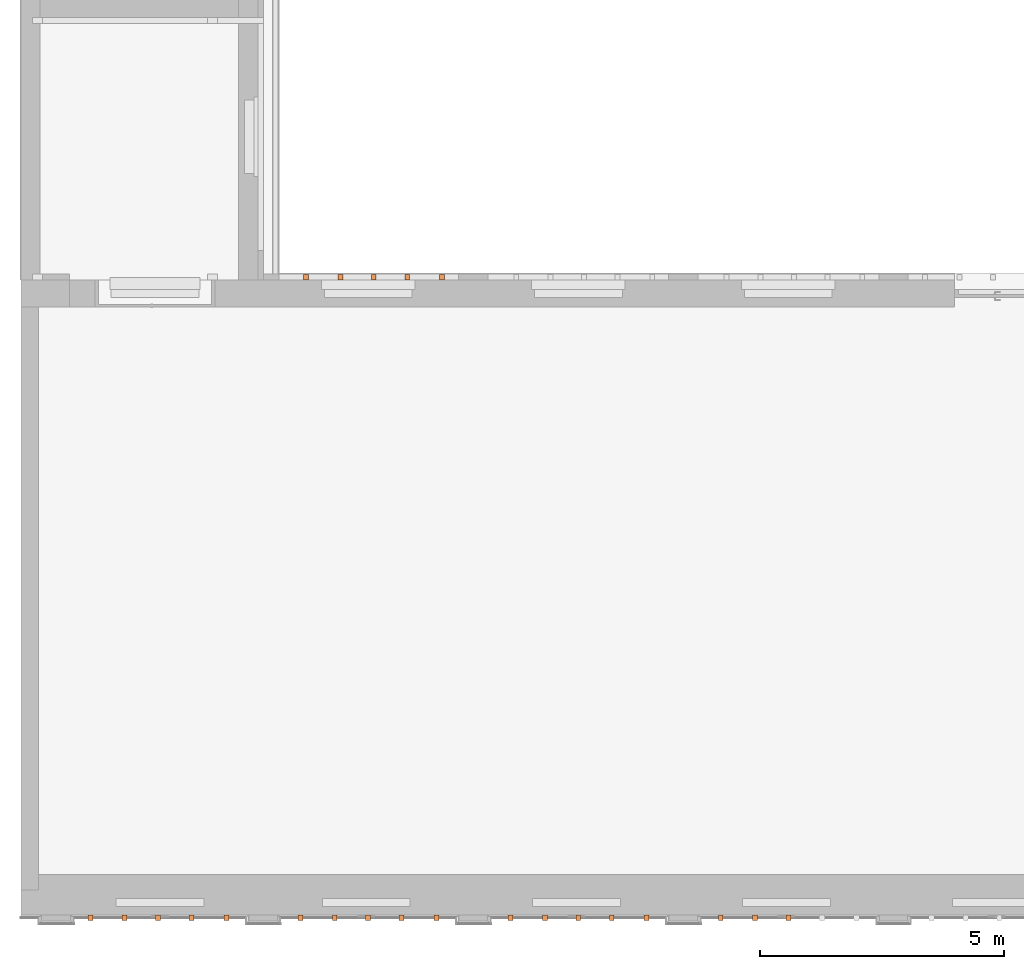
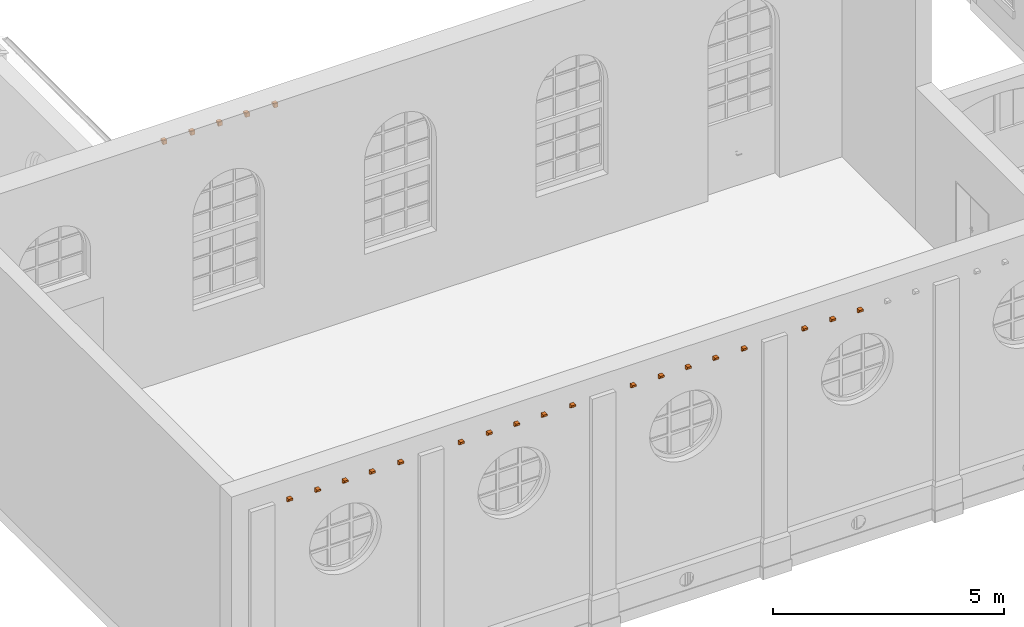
"""IFC4 building model written with IfcOpenShell, lengths in metres."""

from ifc_helpers import new_model, entity, si_unit, converted_unit, derived_unit, frame, origin, place, context, subcontext, project, spatial, faceted_brep, element, save


model = new_model("IFC4")

# Units and contexts
model_context = context("Model", 3, precision=1e-05, world=origin())
body_context = subcontext(model_context, "Body", "Model", "MODEL_VIEW")
ifc_project = project(units=[si_unit("LENGTHUNIT", "METRE"), si_unit("AREAUNIT", "SQUARE_METRE"), si_unit("VOLUMEUNIT", "CUBIC_METRE"), si_unit("MASSUNIT", "GRAM", prefix="KILO"), converted_unit("PLANEANGLEUNIT", "DEGREE", entity("IfcPlaneAngleMeasure", 0.0174532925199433), si_unit("PLANEANGLEUNIT", "RADIAN"), dimensions=[0, 0, 0, 0, 0, 0, 0]), derived_unit("THERMALTRANSMITTANCEUNIT", [(si_unit("POWERUNIT", "WATT"), 1), (si_unit("THERMODYNAMICTEMPERATUREUNIT", "KELVIN"), -1), (si_unit("LENGTHUNIT", "METRE"), -2)]), derived_unit("VOLUMETRICFLOWRATEUNIT", [(si_unit("LENGTHUNIT", "METRE"), 3), (converted_unit("TIMEUNIT", "hour", entity("IfcTimeMeasure", 3600.0), si_unit("TIMEUNIT", "SECOND"), dimensions=[0, 0, 1, 0, 0, 0, 0]), -1), (si_unit("LENGTHUNIT", "METRE"), -1)])], contexts=[model_context])

# Building, storeys
building_placement = place(None, origin())
building = spatial("IfcBuilding", under=ifc_project, at=building_placement, Name="Bestandsgebäude A - Sporthalle / Wohnhaus (TB 100-499)   ANPASSEN !!!", CompositionType="ELEMENT")
storey_1_placement = place(building_placement, origin())
storey_1 = spatial("IfcBuildingStorey", under=building, at=storey_1_placement, Name="Geb. A Erdgeschoss (TB 200-249)", CompositionType="ELEMENT", Elevation=0.0)
storey_2_placement = place(storey_1_placement, origin())
storey_2 = spatial("IfcBuildingStorey", under=storey_1, at=storey_2_placement, Name="Architektur (TB 200-209)", CompositionType="PARTIAL")

# Proxies
proxy_1_placement = place(storey_2_placement, frame((-22.7971205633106, 12.9999999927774, 5.81323934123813)))
element("IfcBuildingElementProxy", 1, at=proxy_1_placement, inside=storey_2, context=body_context, shape_type="Brep", body=[
    faceted_brep([(0.10000000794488, 0.0, 0.10676065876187), (0.10000000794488, 0.0, 0.0), (0.0, 0.0, 0.0), (0.0, 0.0, 0.10676065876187), (0.100000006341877, 0.0221942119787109, 0.0), (0.0, 0.0221942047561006, 0.0), (0.100000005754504, 0.0303266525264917, 0.00115963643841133), (0.0, 0.0303266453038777, 0.00115963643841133), (0.100000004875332, 0.0424991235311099, 0.00476296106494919), (0.0, 0.042499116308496, 0.00476296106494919), (0.100000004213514, 0.0516622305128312, 0.00852666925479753), (0.0, 0.0516622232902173, 0.00852666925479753), (0.100000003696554, 0.0588197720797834, 0.0140969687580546), (0.0, 0.0588197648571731, 0.0140969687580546), (0.10000000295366, 0.069105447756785, 0.0295254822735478), (0.0, 0.0691054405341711, 0.0295254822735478), (0.10000000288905, 0.0700000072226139, 0.0333518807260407), (0.0, 0.07, 0.0333518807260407), (0.10000000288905, 0.0700000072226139, 0.0567606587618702), (0.0, 0.07, 0.0567606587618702), (0.100000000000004, 0.110000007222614, 0.0567606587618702), (0.0, 0.11, 0.0567606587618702), (0.100000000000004, 0.110000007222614, 0.10676065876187), (0.0, 0.11, 0.10676065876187)], [[[0, 1, 2, 3]], [[1, 4, 5, 2]], [[4, 6, 7, 5]], [[6, 8, 9, 7]], [[8, 10, 11, 9]], [[10, 12, 13, 11]], [[12, 14, 15, 13]], [[14, 16, 17, 15]], [[16, 18, 19, 17]], [[18, 20, 21, 19]], [[20, 22, 23, 21]], [[22, 0, 3, 23]], [[0, 22, 20, 18, 16, 14, 12, 10, 8, 6, 4, 1]], [[3, 2, 5, 7, 9, 11, 13, 15, 17, 19, 21, 23]]], orient=[[False], [False], [False], [False], [False], [False], [False], [False], [False], [False], [False], [False], [False], [False]]),
])
proxy_2_placement = place(storey_2_placement, frame((-25.58, 12.9999999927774, 5.81323934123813)))
element("IfcBuildingElementProxy", 2, at=proxy_2_placement, inside=storey_2, context=body_context, shape_type="Brep", body=[
    faceted_brep([(0.100000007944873, 0.0, 0.10676065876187), (0.100000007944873, 0.0, 0.0), (0.0, 0.0, 0.0), (0.0, 0.0, 0.10676065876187), (0.10000000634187, 0.0221942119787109, 0.0), (0.0, 0.0221942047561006, 0.0), (0.100000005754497, 0.0303266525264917, 0.00115963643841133), (0.0, 0.0303266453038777, 0.00115963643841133), (0.100000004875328, 0.0424991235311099, 0.00476296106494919), (0.0, 0.042499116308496, 0.00476296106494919), (0.100000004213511, 0.0516622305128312, 0.00852666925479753), (0.0, 0.0516622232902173, 0.00852666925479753), (0.10000000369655, 0.0588197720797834, 0.0140969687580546), (0.0, 0.0588197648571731, 0.0140969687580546), (0.100000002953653, 0.069105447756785, 0.0295254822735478), (0.0, 0.0691054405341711, 0.0295254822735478), (0.100000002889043, 0.0700000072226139, 0.0333518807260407), (0.0, 0.07, 0.0333518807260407), (0.100000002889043, 0.0700000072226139, 0.0567606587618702), (0.0, 0.07, 0.0567606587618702), (0.1, 0.110000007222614, 0.0567606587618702), (0.0, 0.11, 0.0567606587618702), (0.1, 0.110000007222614, 0.10676065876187), (0.0, 0.11, 0.10676065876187)], [[[0, 1, 2, 3]], [[1, 4, 5, 2]], [[4, 6, 7, 5]], [[6, 8, 9, 7]], [[8, 10, 11, 9]], [[10, 12, 13, 11]], [[12, 14, 15, 13]], [[14, 16, 17, 15]], [[16, 18, 19, 17]], [[18, 20, 21, 19]], [[20, 22, 23, 21]], [[22, 0, 3, 23]], [[0, 22, 20, 18, 16, 14, 12, 10, 8, 6, 4, 1]], [[3, 2, 5, 7, 9, 11, 13, 15, 17, 19, 21, 23]]], orient=[[False], [False], [False], [False], [False], [False], [False], [False], [False], [False], [False], [False], [False], [False]]),
])
for number, where in (
    (3, (-24.88, 13.0000000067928, 5.81323934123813)),
    (4, (-24.195, 12.9999999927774, 5.81323934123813)),
):
    element("IfcBuildingElementProxy", number, at=place(storey_2_placement, frame(where)), inside=storey_2, context=body_context, shape_type="Brep", body=[
        faceted_brep([(0.100000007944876, 0.0, 0.10676065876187), (0.100000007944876, 0.0, 0.0), (0.0, 0.0, 0.0), (0.0, 0.0, 0.10676065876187), (0.100000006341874, 0.0221942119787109, 0.0), (0.0, 0.0221942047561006, 0.0), (0.1000000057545, 0.0303266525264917, 0.00115963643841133), (0.0, 0.0303266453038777, 0.00115963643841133), (0.100000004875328, 0.0424991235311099, 0.00476296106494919), (0.0, 0.042499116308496, 0.00476296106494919), (0.100000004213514, 0.0516622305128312, 0.00852666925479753), (0.0, 0.0516622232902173, 0.00852666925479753), (0.10000000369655, 0.0588197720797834, 0.0140969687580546), (0.0, 0.0588197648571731, 0.0140969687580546), (0.100000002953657, 0.069105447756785, 0.0295254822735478), (0.0, 0.0691054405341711, 0.0295254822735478), (0.100000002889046, 0.0700000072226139, 0.0333518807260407), (0.0, 0.07, 0.0333518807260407), (0.100000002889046, 0.0700000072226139, 0.0567606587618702), (0.0, 0.07, 0.0567606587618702), (0.1, 0.110000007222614, 0.0567606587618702), (0.0, 0.11, 0.0567606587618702), (0.1, 0.110000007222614, 0.10676065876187), (0.0, 0.11, 0.10676065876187)], [[[0, 1, 2, 3]], [[1, 4, 5, 2]], [[4, 6, 7, 5]], [[6, 8, 9, 7]], [[8, 10, 11, 9]], [[10, 12, 13, 11]], [[12, 14, 15, 13]], [[14, 16, 17, 15]], [[16, 18, 19, 17]], [[18, 20, 21, 19]], [[20, 22, 23, 21]], [[22, 0, 3, 23]], [[0, 22, 20, 18, 16, 14, 12, 10, 8, 6, 4, 1]], [[3, 2, 5, 7, 9, 11, 13, 15, 17, 19, 21, 23]]], orient=[[False], [False], [False], [False], [False], [False], [False], [False], [False], [False], [False], [False], [False], [False]]),
    ])
proxy_3_placement = place(storey_2_placement, frame((-23.51, 12.9999999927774, 5.81323934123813)))
element("IfcBuildingElementProxy", 5, at=proxy_3_placement, inside=storey_2, context=body_context, shape_type="Brep", body=[
    faceted_brep([(0.100000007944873, 0.0, 0.10676065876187), (0.100000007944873, 0.0, 0.0), (0.0, 0.0, 0.0), (0.0, 0.0, 0.10676065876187), (0.10000000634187, 0.0221942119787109, 0.0), (0.0, 0.0221942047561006, 0.0), (0.100000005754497, 0.0303266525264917, 0.00115963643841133), (0.0, 0.0303266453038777, 0.00115963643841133), (0.100000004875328, 0.0424991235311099, 0.00476296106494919), (0.0, 0.042499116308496, 0.00476296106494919), (0.100000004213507, 0.0516622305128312, 0.00852666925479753), (0.0, 0.0516622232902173, 0.00852666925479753), (0.10000000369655, 0.0588197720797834, 0.0140969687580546), (0.0, 0.0588197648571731, 0.0140969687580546), (0.100000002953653, 0.069105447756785, 0.0295254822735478), (0.0, 0.0691054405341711, 0.0295254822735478), (0.100000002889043, 0.0700000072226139, 0.0333518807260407), (0.0, 0.07, 0.0333518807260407), (0.100000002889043, 0.0700000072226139, 0.0567606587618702), (0.0, 0.07, 0.0567606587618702), (0.1, 0.110000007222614, 0.0567606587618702), (0.0, 0.11, 0.0567606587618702), (0.1, 0.110000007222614, 0.10676065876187), (0.0, 0.11, 0.10676065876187)], [[[0, 1, 2, 3]], [[1, 4, 5, 2]], [[4, 6, 7, 5]], [[6, 8, 9, 7]], [[8, 10, 11, 9]], [[10, 12, 13, 11]], [[12, 14, 15, 13]], [[14, 16, 17, 15]], [[16, 18, 19, 17]], [[18, 20, 21, 19]], [[20, 22, 23, 21]], [[22, 0, 3, 23]], [[0, 22, 20, 18, 16, 14, 12, 10, 8, 6, 4, 1]], [[3, 2, 5, 7, 9, 11, 13, 15, 17, 19, 21, 23]]], orient=[[False], [False], [False], [False], [False], [False], [False], [False], [False], [False], [False], [False], [False], [False]]),
])
proxy_4_placement = place(storey_2_placement, frame((-17.095, -0.11000000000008, 5.81323934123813)))
element("IfcBuildingElementProxy", 6, at=proxy_4_placement, inside=storey_2, context=body_context, shape_type="Brep", body=[
    faceted_brep([(0.100000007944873, 0.11, 0.10676065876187), (0.0, 0.110000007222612, 0.10676065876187), (0.0, 0.11000000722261, 0.0), (0.100000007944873, 0.109999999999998, 0.0), (0.0, 0.0878058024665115, 0.0), (0.10000000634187, 0.087805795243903, 0.0), (0.0, 0.0796733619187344, 0.00115963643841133), (0.100000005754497, 0.0796733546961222, 0.00115963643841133), (0.0, 0.0675008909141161, 0.00476296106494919), (0.100000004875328, 0.067500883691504, 0.00476296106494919), (0.0, 0.0583377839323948, 0.00852666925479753), (0.100000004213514, 0.0583377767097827, 0.00852666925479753), (0.0, 0.051180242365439, 0.0140969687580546), (0.10000000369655, 0.0511802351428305, 0.0140969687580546), (0.0, 0.040894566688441, 0.0295254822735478), (0.100000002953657, 0.0408945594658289, 0.0295254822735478), (0.0, 0.0400000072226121, 0.0333518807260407), (0.100000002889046, 0.04, 0.0333518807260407), (0.0, 0.0400000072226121, 0.0567606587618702), (0.100000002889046, 0.04, 0.0567606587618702), (0.0, 0.0, 0.0567606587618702), (0.1, 0.0, 0.0567606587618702), (0.0, 0.0, 0.10676065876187), (0.1, 0.0, 0.10676065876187)], [[[0, 1, 2, 3]], [[3, 2, 4, 5]], [[5, 4, 6, 7]], [[7, 6, 8, 9]], [[9, 8, 10, 11]], [[11, 10, 12, 13]], [[13, 12, 14, 15]], [[15, 14, 16, 17]], [[17, 16, 18, 19]], [[19, 18, 20, 21]], [[21, 20, 22, 23]], [[23, 22, 1, 0]], [[0, 3, 5, 7, 9, 11, 13, 15, 17, 19, 21, 23]], [[1, 22, 20, 18, 16, 14, 12, 10, 8, 6, 4, 2]]], orient=[[False], [False], [False], [False], [False], [False], [False], [False], [False], [False], [False], [False], [False], [False]]),
])
for number, where in (
    (7, (-16.395, -0.110000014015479, 5.81323934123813)),
    (8, (-15.71, -0.110000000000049, 5.81323934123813)),
):
    element("IfcBuildingElementProxy", number, at=place(storey_2_placement, frame(where)), inside=storey_2, context=body_context, shape_type="Brep", body=[
        faceted_brep([(0.100000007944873, 0.11, 0.10676065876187), (0.0, 0.110000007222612, 0.10676065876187), (0.0, 0.11000000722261, 0.0), (0.100000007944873, 0.109999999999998, 0.0), (0.0, 0.0878058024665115, 0.0), (0.10000000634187, 0.087805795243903, 0.0), (0.0, 0.0796733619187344, 0.00115963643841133), (0.100000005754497, 0.0796733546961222, 0.00115963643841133), (0.0, 0.0675008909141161, 0.00476296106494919), (0.100000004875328, 0.067500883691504, 0.00476296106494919), (0.0, 0.0583377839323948, 0.00852666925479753), (0.100000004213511, 0.0583377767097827, 0.00852666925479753), (0.0, 0.051180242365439, 0.0140969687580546), (0.10000000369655, 0.0511802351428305, 0.0140969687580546), (0.0, 0.040894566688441, 0.0295254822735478), (0.100000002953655, 0.0408945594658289, 0.0295254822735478), (0.0, 0.0400000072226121, 0.0333518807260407), (0.100000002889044, 0.04, 0.0333518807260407), (0.0, 0.0400000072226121, 0.0567606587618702), (0.100000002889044, 0.04, 0.0567606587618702), (0.0, 0.0, 0.0567606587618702), (0.1, 0.0, 0.0567606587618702), (0.0, 0.0, 0.10676065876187), (0.1, 0.0, 0.10676065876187)], [[[0, 1, 2, 3]], [[3, 2, 4, 5]], [[5, 4, 6, 7]], [[7, 6, 8, 9]], [[9, 8, 10, 11]], [[11, 10, 12, 13]], [[13, 12, 14, 15]], [[15, 14, 16, 17]], [[17, 16, 18, 19]], [[19, 18, 20, 21]], [[21, 20, 22, 23]], [[23, 22, 1, 0]], [[0, 3, 5, 7, 9, 11, 13, 15, 17, 19, 21, 23]], [[1, 22, 20, 18, 16, 14, 12, 10, 8, 6, 4, 2]]], orient=[[False], [False], [False], [False], [False], [False], [False], [False], [False], [False], [False], [False], [False], [False]]),
    ])
proxy_5_placement = place(storey_2_placement, frame((-18.6121205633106, -0.110000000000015, 5.81323934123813)))
element("IfcBuildingElementProxy", 9, at=proxy_5_placement, inside=storey_2, context=body_context, shape_type="Brep", body=[
    faceted_brep([(0.100000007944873, 0.11, 0.10676065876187), (0.0, 0.110000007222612, 0.10676065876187), (0.0, 0.11000000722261, 0.0), (0.100000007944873, 0.109999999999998, 0.0), (0.0, 0.0878058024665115, 0.0), (0.10000000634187, 0.087805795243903, 0.0), (0.0, 0.0796733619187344, 0.00115963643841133), (0.100000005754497, 0.0796733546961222, 0.00115963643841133), (0.0, 0.0675008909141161, 0.00476296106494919), (0.100000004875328, 0.067500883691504, 0.00476296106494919), (0.0, 0.0583377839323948, 0.00852666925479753), (0.100000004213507, 0.0583377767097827, 0.00852666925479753), (0.0, 0.051180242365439, 0.0140969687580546), (0.10000000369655, 0.0511802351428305, 0.0140969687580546), (0.0, 0.040894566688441, 0.0295254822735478), (0.100000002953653, 0.0408945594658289, 0.0295254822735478), (0.0, 0.0400000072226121, 0.0333518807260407), (0.100000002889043, 0.04, 0.0333518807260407), (0.0, 0.0400000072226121, 0.0567606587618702), (0.100000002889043, 0.04, 0.0567606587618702), (0.0, 0.0, 0.0567606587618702), (0.1, 0.0, 0.0567606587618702), (0.0, 0.0, 0.10676065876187), (0.1, 0.0, 0.10676065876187)], [[[0, 1, 2, 3]], [[3, 2, 4, 5]], [[5, 4, 6, 7]], [[7, 6, 8, 9]], [[9, 8, 10, 11]], [[11, 10, 12, 13]], [[13, 12, 14, 15]], [[15, 14, 16, 17]], [[17, 16, 18, 19]], [[19, 18, 20, 21]], [[21, 20, 22, 23]], [[23, 22, 1, 0]], [[0, 3, 5, 7, 9, 11, 13, 15, 17, 19, 21, 23]], [[1, 22, 20, 18, 16, 14, 12, 10, 8, 6, 4, 2]]], orient=[[False], [False], [False], [False], [False], [False], [False], [False], [False], [False], [False], [False], [False], [False]]),
])
proxy_6_placement = place(storey_2_placement, frame((-21.395, -0.110000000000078, 5.81323934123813)))
element("IfcBuildingElementProxy", 10, at=proxy_6_placement, inside=storey_2, context=body_context, shape_type="Brep", body=[
    faceted_brep([(0.100000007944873, 0.11, 0.10676065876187), (0.0, 0.110000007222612, 0.10676065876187), (0.0, 0.11000000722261, 0.0), (0.100000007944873, 0.109999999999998, 0.0), (0.0, 0.0878058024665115, 0.0), (0.10000000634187, 0.087805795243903, 0.0), (0.0, 0.0796733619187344, 0.00115963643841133), (0.100000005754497, 0.0796733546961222, 0.00115963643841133), (0.0, 0.0675008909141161, 0.00476296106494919), (0.100000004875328, 0.067500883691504, 0.00476296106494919), (0.0, 0.0583377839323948, 0.00852666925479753), (0.100000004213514, 0.0583377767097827, 0.00852666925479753), (0.0, 0.051180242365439, 0.0140969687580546), (0.10000000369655, 0.0511802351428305, 0.0140969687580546), (0.0, 0.040894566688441, 0.0295254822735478), (0.100000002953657, 0.0408945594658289, 0.0295254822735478), (0.0, 0.0400000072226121, 0.0333518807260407), (0.100000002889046, 0.04, 0.0333518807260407), (0.0, 0.0400000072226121, 0.0567606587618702), (0.100000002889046, 0.04, 0.0567606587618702), (0.0, 0.0, 0.0567606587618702), (0.1, 0.0, 0.0567606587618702), (0.0, 0.0, 0.10676065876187), (0.1, 0.0, 0.10676065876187)], [[[0, 1, 2, 3]], [[3, 2, 4, 5]], [[5, 4, 6, 7]], [[7, 6, 8, 9]], [[9, 8, 10, 11]], [[11, 10, 12, 13]], [[13, 12, 14, 15]], [[15, 14, 16, 17]], [[17, 16, 18, 19]], [[19, 18, 20, 21]], [[21, 20, 22, 23]], [[23, 22, 1, 0]], [[0, 3, 5, 7, 9, 11, 13, 15, 17, 19, 21, 23]], [[1, 22, 20, 18, 16, 14, 12, 10, 8, 6, 4, 2]]], orient=[[False], [False], [False], [False], [False], [False], [False], [False], [False], [False], [False], [False], [False], [False]]),
])
for number, where in (
    (11, (-20.695, -0.110000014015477, 5.81323934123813)),
    (12, (-20.01, -0.110000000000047, 5.81323934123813)),
):
    element("IfcBuildingElementProxy", number, at=place(storey_2_placement, frame(where)), inside=storey_2, context=body_context, shape_type="Brep", body=[
        faceted_brep([(0.100000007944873, 0.11, 0.10676065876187), (0.0, 0.110000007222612, 0.10676065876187), (0.0, 0.11000000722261, 0.0), (0.100000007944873, 0.109999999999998, 0.0), (0.0, 0.0878058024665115, 0.0), (0.10000000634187, 0.087805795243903, 0.0), (0.0, 0.0796733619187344, 0.00115963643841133), (0.100000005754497, 0.0796733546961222, 0.00115963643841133), (0.0, 0.0675008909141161, 0.00476296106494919), (0.100000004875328, 0.067500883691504, 0.00476296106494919), (0.0, 0.0583377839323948, 0.00852666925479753), (0.100000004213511, 0.0583377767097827, 0.00852666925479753), (0.0, 0.051180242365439, 0.0140969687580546), (0.10000000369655, 0.0511802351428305, 0.0140969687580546), (0.0, 0.040894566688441, 0.0295254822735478), (0.100000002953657, 0.0408945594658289, 0.0295254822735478), (0.0, 0.0400000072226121, 0.0333518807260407), (0.100000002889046, 0.04, 0.0333518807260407), (0.0, 0.0400000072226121, 0.0567606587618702), (0.100000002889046, 0.04, 0.0567606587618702), (0.0, 0.0, 0.0567606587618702), (0.1, 0.0, 0.0567606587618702), (0.0, 0.0, 0.10676065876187), (0.1, 0.0, 0.10676065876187)], [[[0, 1, 2, 3]], [[3, 2, 4, 5]], [[5, 4, 6, 7]], [[7, 6, 8, 9]], [[9, 8, 10, 11]], [[11, 10, 12, 13]], [[13, 12, 14, 15]], [[15, 14, 16, 17]], [[17, 16, 18, 19]], [[19, 18, 20, 21]], [[21, 20, 22, 23]], [[23, 22, 1, 0]], [[0, 3, 5, 7, 9, 11, 13, 15, 17, 19, 21, 23]], [[1, 22, 20, 18, 16, 14, 12, 10, 8, 6, 4, 2]]], orient=[[False], [False], [False], [False], [False], [False], [False], [False], [False], [False], [False], [False], [False], [False]]),
    ])
proxy_7_placement = place(storey_2_placement, frame((-19.325, -0.110000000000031, 5.81323934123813)))
element("IfcBuildingElementProxy", 13, at=proxy_7_placement, inside=storey_2, context=body_context, shape_type="Brep", body=[
    faceted_brep([(0.100000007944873, 0.11, 0.10676065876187), (0.0, 0.110000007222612, 0.10676065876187), (0.0, 0.11000000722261, 0.0), (0.100000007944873, 0.109999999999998, 0.0), (0.0, 0.0878058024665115, 0.0), (0.10000000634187, 0.087805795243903, 0.0), (0.0, 0.0796733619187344, 0.00115963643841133), (0.100000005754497, 0.0796733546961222, 0.00115963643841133), (0.0, 0.0675008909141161, 0.00476296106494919), (0.100000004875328, 0.067500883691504, 0.00476296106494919), (0.0, 0.0583377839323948, 0.00852666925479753), (0.100000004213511, 0.0583377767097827, 0.00852666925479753), (0.0, 0.051180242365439, 0.0140969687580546), (0.10000000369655, 0.0511802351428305, 0.0140969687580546), (0.0, 0.040894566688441, 0.0295254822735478), (0.100000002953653, 0.0408945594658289, 0.0295254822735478), (0.0, 0.0400000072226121, 0.0333518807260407), (0.100000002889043, 0.04, 0.0333518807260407), (0.0, 0.0400000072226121, 0.0567606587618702), (0.100000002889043, 0.04, 0.0567606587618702), (0.0, 0.0, 0.0567606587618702), (0.1, 0.0, 0.0567606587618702), (0.0, 0.0, 0.10676065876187), (0.1, 0.0, 0.10676065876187)], [[[0, 1, 2, 3]], [[3, 2, 4, 5]], [[5, 4, 6, 7]], [[7, 6, 8, 9]], [[9, 8, 10, 11]], [[11, 10, 12, 13]], [[13, 12, 14, 15]], [[15, 14, 16, 17]], [[17, 16, 18, 19]], [[19, 18, 20, 21]], [[21, 20, 22, 23]], [[23, 22, 1, 0]], [[0, 3, 5, 7, 9, 11, 13, 15, 17, 19, 21, 23]], [[1, 22, 20, 18, 16, 14, 12, 10, 8, 6, 4, 2]]], orient=[[False], [False], [False], [False], [False], [False], [False], [False], [False], [False], [False], [False], [False], [False]]),
])
proxy_8_placement = place(storey_2_placement, frame((-22.9121205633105, -0.110000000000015, 5.81323934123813)))
element("IfcBuildingElementProxy", 14, at=proxy_8_placement, inside=storey_2, context=body_context, shape_type="Brep", body=[
    faceted_brep([(0.100000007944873, 0.11, 0.10676065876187), (0.0, 0.110000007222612, 0.10676065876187), (0.0, 0.11000000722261, 0.0), (0.100000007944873, 0.109999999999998, 0.0), (0.0, 0.0878058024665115, 0.0), (0.10000000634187, 0.087805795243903, 0.0), (0.0, 0.0796733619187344, 0.00115963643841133), (0.100000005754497, 0.0796733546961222, 0.00115963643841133), (0.0, 0.0675008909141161, 0.00476296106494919), (0.100000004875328, 0.067500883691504, 0.00476296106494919), (0.0, 0.0583377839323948, 0.00852666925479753), (0.100000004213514, 0.0583377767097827, 0.00852666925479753), (0.0, 0.051180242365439, 0.0140969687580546), (0.10000000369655, 0.0511802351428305, 0.0140969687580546), (0.0, 0.040894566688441, 0.0295254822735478), (0.100000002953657, 0.0408945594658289, 0.0295254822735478), (0.0, 0.0400000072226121, 0.0333518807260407), (0.100000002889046, 0.04, 0.0333518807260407), (0.0, 0.0400000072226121, 0.0567606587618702), (0.100000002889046, 0.04, 0.0567606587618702), (0.0, 0.0, 0.0567606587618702), (0.1, 0.0, 0.0567606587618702), (0.0, 0.0, 0.10676065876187), (0.1, 0.0, 0.10676065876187)], [[[0, 1, 2, 3]], [[3, 2, 4, 5]], [[5, 4, 6, 7]], [[7, 6, 8, 9]], [[9, 8, 10, 11]], [[11, 10, 12, 13]], [[13, 12, 14, 15]], [[15, 14, 16, 17]], [[17, 16, 18, 19]], [[19, 18, 20, 21]], [[21, 20, 22, 23]], [[23, 22, 1, 0]], [[0, 3, 5, 7, 9, 11, 13, 15, 17, 19, 21, 23]], [[1, 22, 20, 18, 16, 14, 12, 10, 8, 6, 4, 2]]], orient=[[False], [False], [False], [False], [False], [False], [False], [False], [False], [False], [False], [False], [False], [False]]),
])
proxy_9_placement = place(storey_2_placement, frame((-25.695, -0.110000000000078, 5.81323934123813)))
element("IfcBuildingElementProxy", 15, at=proxy_9_placement, inside=storey_2, context=body_context, shape_type="Brep", body=[
    faceted_brep([(0.100000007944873, 0.11, 0.10676065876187), (0.0, 0.110000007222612, 0.10676065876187), (0.0, 0.11000000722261, 0.0), (0.100000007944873, 0.109999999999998, 0.0), (0.0, 0.0878058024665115, 0.0), (0.10000000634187, 0.087805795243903, 0.0), (0.0, 0.0796733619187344, 0.00115963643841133), (0.100000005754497, 0.0796733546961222, 0.00115963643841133), (0.0, 0.0675008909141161, 0.00476296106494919), (0.100000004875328, 0.067500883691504, 0.00476296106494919), (0.0, 0.0583377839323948, 0.00852666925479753), (0.100000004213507, 0.0583377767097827, 0.00852666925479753), (0.0, 0.051180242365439, 0.0140969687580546), (0.10000000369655, 0.0511802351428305, 0.0140969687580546), (0.0, 0.040894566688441, 0.0295254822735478), (0.100000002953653, 0.0408945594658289, 0.0295254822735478), (0.0, 0.0400000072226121, 0.0333518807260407), (0.100000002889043, 0.04, 0.0333518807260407), (0.0, 0.0400000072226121, 0.0567606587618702), (0.100000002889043, 0.04, 0.0567606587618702), (0.0, 0.0, 0.0567606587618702), (0.1, 0.0, 0.0567606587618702), (0.0, 0.0, 0.10676065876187), (0.1, 0.0, 0.10676065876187)], [[[0, 1, 2, 3]], [[3, 2, 4, 5]], [[5, 4, 6, 7]], [[7, 6, 8, 9]], [[9, 8, 10, 11]], [[11, 10, 12, 13]], [[13, 12, 14, 15]], [[15, 14, 16, 17]], [[17, 16, 18, 19]], [[19, 18, 20, 21]], [[21, 20, 22, 23]], [[23, 22, 1, 0]], [[0, 3, 5, 7, 9, 11, 13, 15, 17, 19, 21, 23]], [[1, 22, 20, 18, 16, 14, 12, 10, 8, 6, 4, 2]]], orient=[[False], [False], [False], [False], [False], [False], [False], [False], [False], [False], [False], [False], [False], [False]]),
])
for number, where in (
    (16, (-24.995, -0.110000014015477, 5.81323934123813)),
    (17, (-24.31, -0.110000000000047, 5.81323934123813)),
):
    element("IfcBuildingElementProxy", number, at=place(storey_2_placement, frame(where)), inside=storey_2, context=body_context, shape_type="Brep", body=[
        faceted_brep([(0.100000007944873, 0.11, 0.10676065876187), (0.0, 0.110000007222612, 0.10676065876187), (0.0, 0.11000000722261, 0.0), (0.100000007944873, 0.109999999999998, 0.0), (0.0, 0.0878058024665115, 0.0), (0.10000000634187, 0.087805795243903, 0.0), (0.0, 0.0796733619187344, 0.00115963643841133), (0.100000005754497, 0.0796733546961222, 0.00115963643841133), (0.0, 0.0675008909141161, 0.00476296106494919), (0.100000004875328, 0.067500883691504, 0.00476296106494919), (0.0, 0.0583377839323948, 0.00852666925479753), (0.100000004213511, 0.0583377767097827, 0.00852666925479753), (0.0, 0.051180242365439, 0.0140969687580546), (0.10000000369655, 0.0511802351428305, 0.0140969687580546), (0.0, 0.040894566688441, 0.0295254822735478), (0.100000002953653, 0.0408945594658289, 0.0295254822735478), (0.0, 0.0400000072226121, 0.0333518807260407), (0.100000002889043, 0.04, 0.0333518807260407), (0.0, 0.0400000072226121, 0.0567606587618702), (0.100000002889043, 0.04, 0.0567606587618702), (0.0, 0.0, 0.0567606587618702), (0.1, 0.0, 0.0567606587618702), (0.0, 0.0, 0.10676065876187), (0.1, 0.0, 0.10676065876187)], [[[0, 1, 2, 3]], [[3, 2, 4, 5]], [[5, 4, 6, 7]], [[7, 6, 8, 9]], [[9, 8, 10, 11]], [[11, 10, 12, 13]], [[13, 12, 14, 15]], [[15, 14, 16, 17]], [[17, 16, 18, 19]], [[19, 18, 20, 21]], [[21, 20, 22, 23]], [[23, 22, 1, 0]], [[0, 3, 5, 7, 9, 11, 13, 15, 17, 19, 21, 23]], [[1, 22, 20, 18, 16, 14, 12, 10, 8, 6, 4, 2]]], orient=[[False], [False], [False], [False], [False], [False], [False], [False], [False], [False], [False], [False], [False], [False]]),
    ])
for number, where in (
    (18, (-23.625, -0.110000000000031, 5.81323934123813)),
    (19, (-27.2121205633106, -0.110000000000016, 5.81323934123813)),
):
    element("IfcBuildingElementProxy", number, at=place(storey_2_placement, frame(where)), inside=storey_2, context=body_context, shape_type="Brep", body=[
        faceted_brep([(0.100000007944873, 0.11, 0.10676065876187), (0.0, 0.110000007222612, 0.10676065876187), (0.0, 0.11000000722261, 0.0), (0.100000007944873, 0.109999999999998, 0.0), (0.0, 0.0878058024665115, 0.0), (0.10000000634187, 0.087805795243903, 0.0), (0.0, 0.0796733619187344, 0.00115963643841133), (0.100000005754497, 0.0796733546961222, 0.00115963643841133), (0.0, 0.0675008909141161, 0.00476296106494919), (0.100000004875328, 0.067500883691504, 0.00476296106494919), (0.0, 0.0583377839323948, 0.00852666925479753), (0.100000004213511, 0.0583377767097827, 0.00852666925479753), (0.0, 0.051180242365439, 0.0140969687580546), (0.10000000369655, 0.0511802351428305, 0.0140969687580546), (0.0, 0.040894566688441, 0.0295254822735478), (0.100000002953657, 0.0408945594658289, 0.0295254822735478), (0.0, 0.0400000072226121, 0.0333518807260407), (0.100000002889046, 0.04, 0.0333518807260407), (0.0, 0.0400000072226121, 0.0567606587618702), (0.100000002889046, 0.04, 0.0567606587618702), (0.0, 0.0, 0.0567606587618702), (0.1, 0.0, 0.0567606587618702), (0.0, 0.0, 0.10676065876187), (0.1, 0.0, 0.10676065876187)], [[[0, 1, 2, 3]], [[3, 2, 4, 5]], [[5, 4, 6, 7]], [[7, 6, 8, 9]], [[9, 8, 10, 11]], [[11, 10, 12, 13]], [[13, 12, 14, 15]], [[15, 14, 16, 17]], [[17, 16, 18, 19]], [[19, 18, 20, 21]], [[21, 20, 22, 23]], [[23, 22, 1, 0]], [[0, 3, 5, 7, 9, 11, 13, 15, 17, 19, 21, 23]], [[1, 22, 20, 18, 16, 14, 12, 10, 8, 6, 4, 2]]], orient=[[False], [False], [False], [False], [False], [False], [False], [False], [False], [False], [False], [False], [False], [False]]),
    ])
proxy_10_placement = place(storey_2_placement, frame((-29.995, -0.11000000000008, 5.81323934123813)))
element("IfcBuildingElementProxy", 20, at=proxy_10_placement, inside=storey_2, context=body_context, shape_type="Brep", body=[
    faceted_brep([(0.100000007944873, 0.11, 0.10676065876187), (0.0, 0.110000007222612, 0.10676065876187), (0.0, 0.11000000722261, 0.0), (0.100000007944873, 0.109999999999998, 0.0), (0.0, 0.0878058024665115, 0.0), (0.10000000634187, 0.087805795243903, 0.0), (0.0, 0.0796733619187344, 0.00115963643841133), (0.100000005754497, 0.0796733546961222, 0.00115963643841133), (0.0, 0.0675008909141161, 0.00476296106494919), (0.100000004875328, 0.067500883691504, 0.00476296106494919), (0.0, 0.0583377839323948, 0.00852666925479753), (0.100000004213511, 0.0583377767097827, 0.00852666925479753), (0.0, 0.051180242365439, 0.0140969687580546), (0.10000000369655, 0.0511802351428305, 0.0140969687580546), (0.0, 0.040894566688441, 0.0295254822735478), (0.100000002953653, 0.0408945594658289, 0.0295254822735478), (0.0, 0.0400000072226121, 0.0333518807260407), (0.100000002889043, 0.04, 0.0333518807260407), (0.0, 0.0400000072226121, 0.0567606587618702), (0.100000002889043, 0.04, 0.0567606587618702), (0.0, 0.0, 0.0567606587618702), (0.1, 0.0, 0.0567606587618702), (0.0, 0.0, 0.10676065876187), (0.1, 0.0, 0.10676065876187)], [[[0, 1, 2, 3]], [[3, 2, 4, 5]], [[5, 4, 6, 7]], [[7, 6, 8, 9]], [[9, 8, 10, 11]], [[11, 10, 12, 13]], [[13, 12, 14, 15]], [[15, 14, 16, 17]], [[17, 16, 18, 19]], [[19, 18, 20, 21]], [[21, 20, 22, 23]], [[23, 22, 1, 0]], [[0, 3, 5, 7, 9, 11, 13, 15, 17, 19, 21, 23]], [[1, 22, 20, 18, 16, 14, 12, 10, 8, 6, 4, 2]]], orient=[[False], [False], [False], [False], [False], [False], [False], [False], [False], [False], [False], [False], [False], [False]]),
])
for number, where in (
    (21, (-29.295, -0.110000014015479, 5.81323934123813)),
    (22, (-28.61, -0.110000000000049, 5.81323934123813)),
):
    element("IfcBuildingElementProxy", number, at=place(storey_2_placement, frame(where)), inside=storey_2, context=body_context, shape_type="Brep", body=[
        faceted_brep([(0.100000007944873, 0.11, 0.10676065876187), (0.0, 0.110000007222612, 0.10676065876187), (0.0, 0.11000000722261, 0.0), (0.100000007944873, 0.109999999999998, 0.0), (0.0, 0.0878058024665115, 0.0), (0.10000000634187, 0.087805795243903, 0.0), (0.0, 0.0796733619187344, 0.00115963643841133), (0.100000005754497, 0.0796733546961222, 0.00115963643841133), (0.0, 0.0675008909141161, 0.00476296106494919), (0.100000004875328, 0.067500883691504, 0.00476296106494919), (0.0, 0.0583377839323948, 0.00852666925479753), (0.100000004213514, 0.0583377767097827, 0.00852666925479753), (0.0, 0.051180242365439, 0.0140969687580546), (0.10000000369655, 0.0511802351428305, 0.0140969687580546), (0.0, 0.040894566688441, 0.0295254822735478), (0.100000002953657, 0.0408945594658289, 0.0295254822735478), (0.0, 0.0400000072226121, 0.0333518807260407), (0.100000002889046, 0.04, 0.0333518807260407), (0.0, 0.0400000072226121, 0.0567606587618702), (0.100000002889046, 0.04, 0.0567606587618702), (0.0, 0.0, 0.0567606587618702), (0.1, 0.0, 0.0567606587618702), (0.0, 0.0, 0.10676065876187), (0.1, 0.0, 0.10676065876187)], [[[0, 1, 2, 3]], [[3, 2, 4, 5]], [[5, 4, 6, 7]], [[7, 6, 8, 9]], [[9, 8, 10, 11]], [[11, 10, 12, 13]], [[13, 12, 14, 15]], [[15, 14, 16, 17]], [[17, 16, 18, 19]], [[19, 18, 20, 21]], [[21, 20, 22, 23]], [[23, 22, 1, 0]], [[0, 3, 5, 7, 9, 11, 13, 15, 17, 19, 21, 23]], [[1, 22, 20, 18, 16, 14, 12, 10, 8, 6, 4, 2]]], orient=[[False], [False], [False], [False], [False], [False], [False], [False], [False], [False], [False], [False], [False], [False]]),
    ])
proxy_11_placement = place(storey_2_placement, frame((-27.925, -0.110000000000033, 5.81323934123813)))
element("IfcBuildingElementProxy", 23, at=proxy_11_placement, inside=storey_2, context=body_context, shape_type="Brep", body=[
    faceted_brep([(0.100000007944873, 0.11, 0.10676065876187), (0.0, 0.110000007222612, 0.10676065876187), (0.0, 0.11000000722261, 0.0), (0.100000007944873, 0.109999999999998, 0.0), (0.0, 0.0878058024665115, 0.0), (0.10000000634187, 0.087805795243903, 0.0), (0.0, 0.0796733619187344, 0.00115963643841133), (0.100000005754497, 0.0796733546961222, 0.00115963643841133), (0.0, 0.0675008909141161, 0.00476296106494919), (0.100000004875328, 0.067500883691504, 0.00476296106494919), (0.0, 0.0583377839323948, 0.00852666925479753), (0.100000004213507, 0.0583377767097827, 0.00852666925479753), (0.0, 0.051180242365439, 0.0140969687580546), (0.10000000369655, 0.0511802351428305, 0.0140969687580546), (0.0, 0.040894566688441, 0.0295254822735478), (0.100000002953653, 0.0408945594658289, 0.0295254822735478), (0.0, 0.0400000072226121, 0.0333518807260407), (0.100000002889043, 0.04, 0.0333518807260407), (0.0, 0.0400000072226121, 0.0567606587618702), (0.100000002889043, 0.04, 0.0567606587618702), (0.0, 0.0, 0.0567606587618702), (0.1, 0.0, 0.0567606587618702), (0.0, 0.0, 0.10676065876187), (0.1, 0.0, 0.10676065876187)], [[[0, 1, 2, 3]], [[3, 2, 4, 5]], [[5, 4, 6, 7]], [[7, 6, 8, 9]], [[9, 8, 10, 11]], [[11, 10, 12, 13]], [[13, 12, 14, 15]], [[15, 14, 16, 17]], [[17, 16, 18, 19]], [[19, 18, 20, 21]], [[21, 20, 22, 23]], [[23, 22, 1, 0]], [[0, 3, 5, 7, 9, 11, 13, 15, 17, 19, 21, 23]], [[1, 22, 20, 18, 16, 14, 12, 10, 8, 6, 4, 2]]], orient=[[False], [False], [False], [False], [False], [False], [False], [False], [False], [False], [False], [False], [False], [False]]),
])

save(model, "model.ifc")
